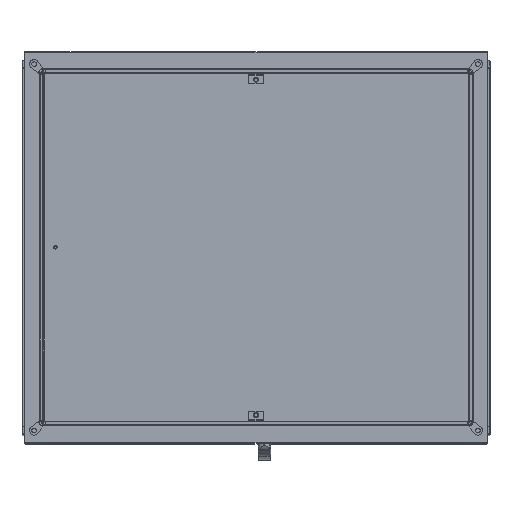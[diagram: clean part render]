
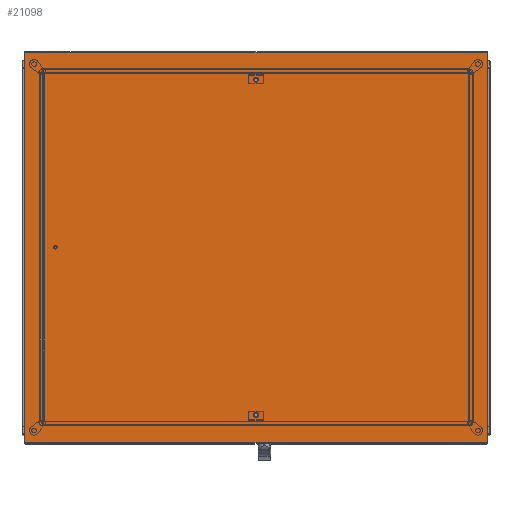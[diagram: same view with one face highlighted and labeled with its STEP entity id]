
A CAD part, top view. The second image highlights one B-rep face of the part: STEP entity #21098.
In plain terms, the highlighted planar face has unit normal (0, 0, 1) as drawn and (0, -1, 0) by its records, which use the part's own axes.
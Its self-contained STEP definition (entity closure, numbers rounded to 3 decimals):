
#1396=CIRCLE('',#23025,6.318);
#1397=CIRCLE('',#23026,6.318);
#6080=ORIENTED_EDGE('',*,*,#10000,.F.);
#6081=ORIENTED_EDGE('',*,*,#10013,.F.);
#6082=ORIENTED_EDGE('',*,*,#9959,.F.);
#6083=ORIENTED_EDGE('',*,*,#10006,.F.);
#6084=ORIENTED_EDGE('',*,*,#10020,.F.);
#6085=ORIENTED_EDGE('',*,*,#10021,.F.);
#9959=EDGE_CURVE('',#12265,#12266,#14311,.T.);
#10000=EDGE_CURVE('',#12300,#12301,#14341,.T.);
#10006=EDGE_CURVE('',#12301,#12265,#14346,.T.);
#10013=EDGE_CURVE('',#12266,#12300,#14353,.T.);
#10020=EDGE_CURVE('',#12314,#12314,#1396,.T.);
#10021=EDGE_CURVE('',#12315,#12315,#1397,.T.);
#12265=VERTEX_POINT('',#34765);
#12266=VERTEX_POINT('',#34767);
#12300=VERTEX_POINT('',#34845);
#12301=VERTEX_POINT('',#34847);
#12314=VERTEX_POINT('',#34883);
#12315=VERTEX_POINT('',#34885);
#14311=LINE('',#34766,#16380);
#14341=LINE('',#34846,#16410);
#14346=LINE('',#34858,#16415);
#14353=LINE('',#34870,#16422);
#16380=VECTOR('',#28013,1000.);
#16410=VECTOR('',#28073,1000.);
#16415=VECTOR('',#28082,1000.);
#16422=VECTOR('',#28091,1000.);
#17885=EDGE_LOOP('',(#6080,#6081,#6082,#6083));
#17886=EDGE_LOOP('',(#6084));
#17887=EDGE_LOOP('',(#6085));
#19188=FACE_BOUND('',#17885,.T.);
#19189=FACE_BOUND('',#17886,.T.);
#19190=FACE_BOUND('',#17887,.T.);
#20058=PLANE('',#23024);
#21098=ADVANCED_FACE('',(#19188,#19189,#19190),#20058,.F.);
#23024=AXIS2_PLACEMENT_3D('',#34881,#28098,#28099);
#23025=AXIS2_PLACEMENT_3D('',#34882,#28100,#28101);
#23026=AXIS2_PLACEMENT_3D('',#34884,#28102,#28103);
#28013=DIRECTION('',(1.,0.,0.));
#28073=DIRECTION('',(-1.,0.,0.));
#28082=DIRECTION('',(0.,0.,1.));
#28091=DIRECTION('',(0.,0.,-1.));
#28098=DIRECTION('',(0.,1.,0.));
#28099=DIRECTION('',(0.,0.,1.));
#28100=DIRECTION('',(0.,-1.,0.));
#28101=DIRECTION('',(0.,0.,-1.));
#28102=DIRECTION('',(0.,-1.,0.));
#28103=DIRECTION('',(0.,0.,-1.));
#34765=CARTESIAN_POINT('',(-599.5,0.,505.5));
#34766=CARTESIAN_POINT('',(-599.5,0.,505.5));
#34767=CARTESIAN_POINT('',(599.5,0.,505.5));
#34845=CARTESIAN_POINT('',(599.5,0.,-505.5));
#34846=CARTESIAN_POINT('',(599.5,0.,-505.5));
#34847=CARTESIAN_POINT('',(-599.5,0.,-505.5));
#34858=CARTESIAN_POINT('',(-599.5,0.,-505.5));
#34870=CARTESIAN_POINT('',(599.5,0.,505.5));
#34881=CARTESIAN_POINT('',(0.,0.,0.));
#34882=CARTESIAN_POINT('',(0.,0.,434.));
#34883=CARTESIAN_POINT('',(0.,0.,427.682));
#34884=CARTESIAN_POINT('',(0.,0.,-434.));
#34885=CARTESIAN_POINT('',(0.,0.,-440.318));
